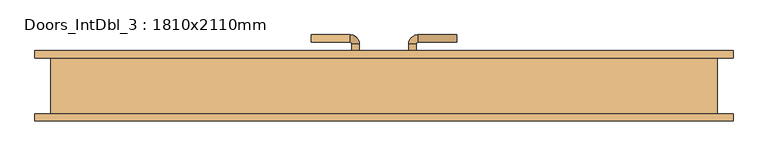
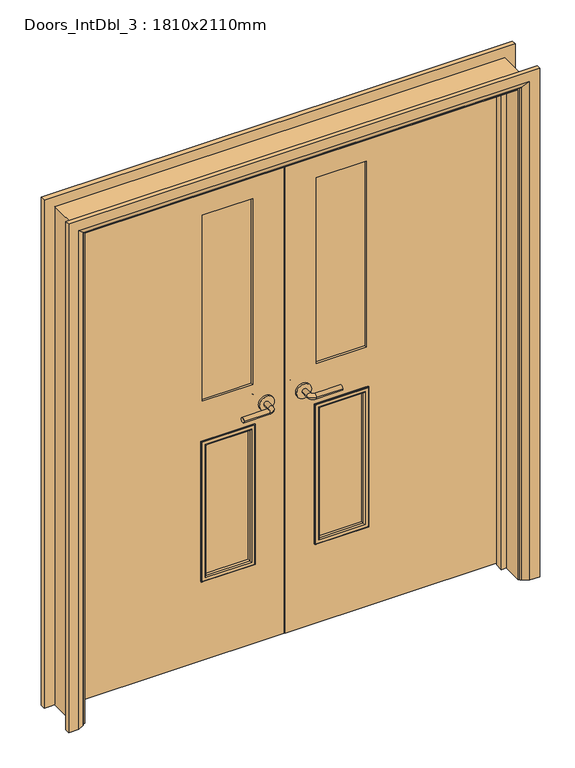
"""IFC4 building model written with IfcOpenShell, lengths in millimetres: door geometry, Doors_IntDbl_3 : 1810x2110mm."""

from ifc_helpers import new_model, si_unit, point, frame, frame_2d, origin, place, context, project, spatial, polyline, circle_curve, ellipse_curve, trimmed, segment, composite_curve, outline, extrude, faceted_brep, source, transform, mapped, element, save
from ifc_brep_helpers import plane_surface, cylinder_surface, revolved_surface, advanced_brep


def doors_intdbl_3_1810x2110mm_64ebe9ef(model_context):
    return source(origin(), model_context, "Body", "SolidModel", [
        advanced_brep(
        [(-66.5, 35.0, 1007.0), (-86.5, 35.0, 1007.0), (-66.5, 5.0, 1007.0), (-86.5, 5.0, 1007.0), (-91.5, 0.0, 1007.0), (-91.5, -20.0, 1007.0), (-196.5, -20.0, 1007.0), (-196.5, 0.0, 1007.0)],
        [
            (0, 1, circle_curve(frame((-76.5, 35.0, 1007.0), z_axis=(0.0, 1.0, 0.0), x_axis=(-1.0, 0.0, 0.0)), 10.0)),
            (1, 0, circle_curve(frame((-76.5, 35.0, 1007.0), z_axis=(0.0, 1.0, 0.0), x_axis=(-1.0, 0.0, 0.0)), 10.0)),
            (0, 2),
            (2, 3, circle_curve(frame((-76.5, 5.0, 1007.0), z_axis=(0.0, 1.0, 0.0), x_axis=(-1.0, 0.0, 0.0)), 10.0)),
            (3, 1),
            (3, 2, circle_curve(frame((-76.5, 5.0, 1007.0), z_axis=(0.0, 1.0, 0.0), x_axis=(-1.0, 0.0, 0.0)), 10.0)),
            (4, 3, circle_curve(frame((-91.5, 5.0, 1007.0), z_axis=(0.0, 0.0, 1.0), x_axis=(1.0, 0.0, 0.0)), 5.0)),
            (2, 5, circle_curve(frame((-91.5, 5.0, 1007.0), z_axis=(0.0, 0.0, -1.0), x_axis=(1.0, 0.0, 0.0)), 25.0)),
            (5, 4, circle_curve(frame((-91.5, -10.0, 1007.0), z_axis=(1.0, 0.0, 0.0), x_axis=(0.0, 1.0, 0.0)), 10.0)),
            (4, 5, circle_curve(frame((-91.5, -10.0, 1007.0), z_axis=(1.0, 0.0, 0.0), x_axis=(0.0, 1.0, 0.0)), 10.0)),
            (6, 7, circle_curve(frame((-196.5, -10.0, 1007.0), z_axis=(-1.0, 0.0, 0.0), x_axis=(0.0, 1.0, 0.0)), 10.0)),
            (7, 6, circle_curve(frame((-196.5, -10.0, 1007.0), z_axis=(-1.0, 0.0, 0.0), x_axis=(0.0, 1.0, 0.0)), 10.0)),
            (5, 6),
            (7, 4),
        ],
        [
            plane_surface(frame((-76.5, 35.0, 1007.0), z_axis=(0.0, 1.0, 0.0), x_axis=(0.0, 0.0, 1.0))),
            cylinder_surface(frame((-76.5, 35.0, 1007.0), z_axis=(0.0, 1.0, 0.0), x_axis=(-1.0, 0.0, 0.0)), 10.0),
            revolved_surface(trimmed(ellipse_curve(frame((-76.5, 5.0, 1007.0), z_axis=(0.0, 1.0, 0.0), x_axis=(-1.0, 0.0, 0.0)), 10.0, 10.0), [point((-66.5, 5.0, 1007.0))], [point((-86.5, 5.0, 1007.0))], True, "CARTESIAN"), (-91.5, 5.0, 1007.0), (0.0, 0.0, -1.0)),
            revolved_surface(trimmed(ellipse_curve(frame((-76.5, 5.0, 1007.0), z_axis=(0.0, 1.0, 0.0), x_axis=(-1.0, 0.0, 0.0)), 10.0, 10.0), [point((-86.5, 5.0, 1007.0))], [point((-66.5, 5.0, 1007.0))], True, "CARTESIAN"), (-91.5, 5.0, 1007.0), (0.0, 0.0, -1.0)),
            plane_surface(frame((-196.5, -10.0, 1007.0), z_axis=(-1.0, 0.0, 0.0), x_axis=(0.0, 0.0, 1.0))),
            cylinder_surface(frame((-91.5, -10.0, 1007.0), z_axis=(1.0, 0.0, 0.0), x_axis=(0.0, 1.0, 0.0)), 10.0),
        ],
        [
            (0, [[1, 2]]),
            (1, [[-1, 3, 4, 5]]),
            (1, [[-2, -5, 6, -3]]),
            (2, [[7, -4, 8, 9]]),
            (3, [[-8, -6, -7, 10]]),
            (4, [[11, 12]]),
            (5, [[-9, 13, -12, 14]]),
            (5, [[-10, -14, -11, -13]]),
        ],
    ),
        extrude(outline(composite_curve([segment(trimmed(circle_curve(frame_2d((1007.0, -74.0)), 30.0), [point((1007.0, -44.0))], [point((1007.0, -104.0))], False, "CARTESIAN"), True, "CONTINUOUS"), segment(trimmed(circle_curve(frame_2d((1007.0, -74.0)), 30.0), [point((1007.0, -104.0))], [point((1007.0, -44.0))], False, "CARTESIAN"), True, "CONTINUOUS")], self_intersect=False)), frame((0.0, 35.0, 0.0), z_axis=(0.0, 1.0, 0.0), x_axis=(0.0, 0.0, 1.0)), (0.0, 0.0, 1.0), 8.0),
        advanced_brep(
        [(-66.5, 83.0, 1007.0), (-86.5, 83.0, 1007.0), (-86.5, 113.0, 1007.0), (-66.5, 113.0, 1007.0), (-91.5, 118.0, 1007.0), (-91.5, 138.0, 1007.0), (-196.5, 138.0, 1007.0), (-196.5, 118.0, 1007.0)],
        [
            (0, 1, circle_curve(frame((-76.5, 83.0, 1007.0), z_axis=(0.0, -1.0, 0.0), x_axis=(-1.0, 0.0, 0.0)), 10.0)),
            (1, 0, circle_curve(frame((-76.5, 83.0, 1007.0), z_axis=(0.0, -1.0, 0.0), x_axis=(-1.0, 0.0, 0.0)), 10.0)),
            (1, 2),
            (2, 3, circle_curve(frame((-76.5, 113.0, 1007.0), z_axis=(0.0, -1.0, 0.0), x_axis=(-1.0, 0.0, 0.0)), 10.0)),
            (3, 0),
            (3, 2, circle_curve(frame((-76.5, 113.0, 1007.0), z_axis=(0.0, -1.0, 0.0), x_axis=(-1.0, 0.0, 0.0)), 10.0)),
            (4, 5, circle_curve(frame((-91.5, 128.0, 1007.0), z_axis=(1.0, 0.0, 0.0), x_axis=(0.0, -1.0, 0.0)), 10.0)),
            (5, 3, circle_curve(frame((-91.5, 113.0, 1007.0), z_axis=(0.0, 0.0, -1.0), x_axis=(1.0, 0.0, 0.0)), 25.0)),
            (2, 4, circle_curve(frame((-91.5, 113.0, 1007.0), z_axis=(0.0, 0.0, 1.0), x_axis=(1.0, 0.0, 0.0)), 5.0)),
            (5, 4, circle_curve(frame((-91.5, 128.0, 1007.0), z_axis=(1.0, 0.0, 0.0), x_axis=(0.0, -1.0, 0.0)), 10.0)),
            (6, 7, circle_curve(frame((-196.5, 128.0, 1007.0), z_axis=(-1.0, 0.0, 0.0), x_axis=(0.0, -1.0, 0.0)), 10.0)),
            (7, 6, circle_curve(frame((-196.5, 128.0, 1007.0), z_axis=(-1.0, 0.0, 0.0), x_axis=(0.0, -1.0, 0.0)), 10.0)),
            (4, 7),
            (6, 5),
        ],
        [
            plane_surface(frame((-76.5, 83.0, 1007.0), z_axis=(0.0, -1.0, 0.0), x_axis=(0.0, 0.0, 1.0))),
            cylinder_surface(frame((-76.5, 83.0, 1007.0), z_axis=(0.0, -1.0, 0.0), x_axis=(-1.0, 0.0, 0.0)), 10.0),
            revolved_surface(trimmed(ellipse_curve(frame((-76.5, 113.0, 1007.0), z_axis=(0.0, 1.0, 0.0), x_axis=(-1.0, 0.0, 0.0)), 10.0, 10.0), [point((-66.5, 113.0, 1007.0))], [point((-86.5, 113.0, 1007.0))], True, "CARTESIAN"), (-91.5, 113.0, 1007.0), (0.0, 0.0, -1.0)),
            revolved_surface(trimmed(ellipse_curve(frame((-76.5, 113.0, 1007.0), z_axis=(0.0, 1.0, 0.0), x_axis=(-1.0, 0.0, 0.0)), 10.0, 10.0), [point((-86.5, 113.0, 1007.0))], [point((-66.5, 113.0, 1007.0))], True, "CARTESIAN"), (-91.5, 113.0, 1007.0), (0.0, 0.0, -1.0)),
            plane_surface(frame((-196.5, 128.0, 1007.0), z_axis=(-1.0, 0.0, 0.0), x_axis=(0.0, 0.0, 1.0))),
            cylinder_surface(frame((-91.5, 128.0, 1007.0), z_axis=(1.0, 0.0, 0.0), x_axis=(0.0, -1.0, 0.0)), 10.0),
        ],
        [
            (0, [[1, 2]]),
            (1, [[3, 4, 5, -2]]),
            (1, [[-5, 6, -3, -1]]),
            (2, [[7, 8, -4, 9]]),
            (3, [[10, -9, -6, -8]]),
            (4, [[11, 12]]),
            (5, [[13, -11, 14, -7]]),
            (5, [[-14, -12, -13, -10]]),
        ],
    ),
        extrude(outline(composite_curve([segment(trimmed(circle_curve(frame_2d((1007.0, -74.0)), 30.0), [point((1007.0, -44.0))], [point((1007.0, -104.0))], False, "CARTESIAN"), True, "CONTINUOUS"), segment(trimmed(circle_curve(frame_2d((1007.0, -74.0)), 30.0), [point((1007.0, -104.0))], [point((1007.0, -44.0))], False, "CARTESIAN"), True, "CONTINUOUS")], self_intersect=False)), frame((0.0, 75.0, 0.0), z_axis=(0.0, 1.0, 0.0), x_axis=(0.0, 0.0, 1.0)), (0.0, 0.0, 1.0), 8.0),
        advanced_brep(
        [(66.5, 35.0, 1007.0), (86.5, 35.0, 1007.0), (86.5, 5.0, 1007.0), (66.5, 5.0, 1007.0), (91.5, 0.0, 1007.0), (91.5, -20.0, 1007.0), (196.5, -20.0, 1007.0), (196.5, 0.0, 1007.0)],
        [
            (0, 1, circle_curve(frame((76.5, 35.0, 1007.0), z_axis=(0.0, 1.0, 0.0), x_axis=(1.0, 0.0, 0.0)), 10.0)),
            (1, 0, circle_curve(frame((76.5, 35.0, 1007.0), z_axis=(0.0, 1.0, 0.0), x_axis=(1.0, 0.0, 0.0)), 10.0)),
            (1, 2),
            (2, 3, circle_curve(frame((76.5, 5.0, 1007.0), z_axis=(0.0, 1.0, 0.0), x_axis=(1.0, 0.0, 0.0)), 10.0)),
            (3, 0),
            (3, 2, circle_curve(frame((76.5, 5.0, 1007.0), z_axis=(0.0, 1.0, 0.0), x_axis=(1.0, 0.0, 0.0)), 10.0)),
            (4, 5, circle_curve(frame((91.5, -10.0, 1007.0), z_axis=(-1.0, 0.0, 0.0), x_axis=(0.0, 1.0, 0.0)), 10.0)),
            (5, 3, circle_curve(frame((91.5, 5.0, 1007.0), z_axis=(0.0, 0.0, -1.0), x_axis=(-1.0, 0.0, 0.0)), 25.0)),
            (2, 4, circle_curve(frame((91.5, 5.0, 1007.0), z_axis=(0.0, 0.0, 1.0), x_axis=(-1.0, 0.0, 0.0)), 5.0)),
            (5, 4, circle_curve(frame((91.5, -10.0, 1007.0), z_axis=(-1.0, 0.0, 0.0), x_axis=(0.0, 1.0, 0.0)), 10.0)),
            (6, 7, circle_curve(frame((196.5, -10.0, 1007.0), z_axis=(1.0, 0.0, 0.0), x_axis=(0.0, 1.0, 0.0)), 10.0)),
            (7, 6, circle_curve(frame((196.5, -10.0, 1007.0), z_axis=(1.0, 0.0, 0.0), x_axis=(0.0, 1.0, 0.0)), 10.0)),
            (4, 7),
            (6, 5),
        ],
        [
            plane_surface(frame((76.5, 35.0, 1007.0), z_axis=(0.0, 1.0, 0.0), x_axis=(0.0, 0.0, 1.0))),
            cylinder_surface(frame((76.5, 35.0, 1007.0), z_axis=(0.0, 1.0, 0.0), x_axis=(1.0, 0.0, 0.0)), 10.0),
            revolved_surface(trimmed(ellipse_curve(frame((76.5, 5.0, 1007.0), z_axis=(0.0, -1.0, 0.0), x_axis=(1.0, 0.0, 0.0)), 10.0, 10.0), [point((66.5, 5.0, 1007.0))], [point((86.5, 5.0, 1007.0))], True, "CARTESIAN"), (91.5, 5.0, 1007.0), (0.0, 0.0, -1.0)),
            revolved_surface(trimmed(ellipse_curve(frame((76.5, 5.0, 1007.0), z_axis=(0.0, -1.0, 0.0), x_axis=(1.0, 0.0, 0.0)), 10.0, 10.0), [point((86.5, 5.0, 1007.0))], [point((66.5, 5.0, 1007.0))], True, "CARTESIAN"), (91.5, 5.0, 1007.0), (0.0, 0.0, -1.0)),
            plane_surface(frame((196.5, -10.0, 1007.0), z_axis=(1.0, 0.0, 0.0), x_axis=(0.0, 0.0, 1.0))),
            cylinder_surface(frame((91.5, -10.0, 1007.0), z_axis=(-1.0, 0.0, 0.0), x_axis=(0.0, 1.0, 0.0)), 10.0),
        ],
        [
            (0, [[1, 2]]),
            (1, [[3, 4, 5, -2]]),
            (1, [[-5, 6, -3, -1]]),
            (2, [[7, 8, -4, 9]]),
            (3, [[10, -9, -6, -8]]),
            (4, [[11, 12]]),
            (5, [[13, -11, 14, -7]]),
            (5, [[-14, -12, -13, -10]]),
        ],
    ),
        extrude(outline(composite_curve([segment(trimmed(circle_curve(frame_2d((1007.0, 74.0)), 30.0), [point((1007.0, 44.0))], [point((1007.0, 104.0))], False, "CARTESIAN"), True, "CONTINUOUS"), segment(trimmed(circle_curve(frame_2d((1007.0, 74.0)), 30.0), [point((1007.0, 104.0))], [point((1007.0, 44.0))], False, "CARTESIAN"), True, "CONTINUOUS")], self_intersect=False)), frame((0.0, 35.0, 0.0), z_axis=(0.0, 1.0, 0.0), x_axis=(0.0, 0.0, 1.0)), (0.0, 0.0, 1.0), 8.0),
        advanced_brep(
        [(66.5, 83.0, 1007.0), (86.5, 83.0, 1007.0), (66.5, 113.0, 1007.0), (86.5, 113.0, 1007.0), (91.5, 118.0, 1007.0), (91.5, 138.0, 1007.0), (196.5, 138.0, 1007.0), (196.5, 118.0, 1007.0)],
        [
            (0, 1, circle_curve(frame((76.5, 83.0, 1007.0), z_axis=(0.0, -1.0, 0.0), x_axis=(1.0, 0.0, 0.0)), 10.0)),
            (1, 0, circle_curve(frame((76.5, 83.0, 1007.0), z_axis=(0.0, -1.0, 0.0), x_axis=(1.0, 0.0, 0.0)), 10.0)),
            (0, 2),
            (2, 3, circle_curve(frame((76.5, 113.0, 1007.0), z_axis=(0.0, -1.0, 0.0), x_axis=(1.0, 0.0, 0.0)), 10.0)),
            (3, 1),
            (3, 2, circle_curve(frame((76.5, 113.0, 1007.0), z_axis=(0.0, -1.0, 0.0), x_axis=(1.0, 0.0, 0.0)), 10.0)),
            (4, 3, circle_curve(frame((91.5, 113.0, 1007.0), z_axis=(0.0, 0.0, 1.0), x_axis=(-1.0, 0.0, 0.0)), 5.0)),
            (2, 5, circle_curve(frame((91.5, 113.0, 1007.0), z_axis=(0.0, 0.0, -1.0), x_axis=(-1.0, 0.0, 0.0)), 25.0)),
            (5, 4, circle_curve(frame((91.5, 128.0, 1007.0), z_axis=(-1.0, 0.0, 0.0), x_axis=(0.0, -1.0, 0.0)), 10.0)),
            (4, 5, circle_curve(frame((91.5, 128.0, 1007.0), z_axis=(-1.0, 0.0, 0.0), x_axis=(0.0, -1.0, 0.0)), 10.0)),
            (6, 7, circle_curve(frame((196.5, 128.0, 1007.0), z_axis=(1.0, 0.0, 0.0), x_axis=(0.0, -1.0, 0.0)), 10.0)),
            (7, 6, circle_curve(frame((196.5, 128.0, 1007.0), z_axis=(1.0, 0.0, 0.0), x_axis=(0.0, -1.0, 0.0)), 10.0)),
            (5, 6),
            (7, 4),
        ],
        [
            plane_surface(frame((76.5, 83.0, 1007.0), z_axis=(0.0, -1.0, 0.0), x_axis=(0.0, 0.0, 1.0))),
            cylinder_surface(frame((76.5, 83.0, 1007.0), z_axis=(0.0, -1.0, 0.0), x_axis=(1.0, 0.0, 0.0)), 10.0),
            revolved_surface(trimmed(ellipse_curve(frame((76.5, 113.0, 1007.0), z_axis=(0.0, -1.0, 0.0), x_axis=(1.0, 0.0, 0.0)), 10.0, 10.0), [point((66.5, 113.0, 1007.0))], [point((86.5, 113.0, 1007.0))], True, "CARTESIAN"), (91.5, 113.0, 1007.0), (0.0, 0.0, -1.0)),
            revolved_surface(trimmed(ellipse_curve(frame((76.5, 113.0, 1007.0), z_axis=(0.0, -1.0, 0.0), x_axis=(1.0, 0.0, 0.0)), 10.0, 10.0), [point((86.5, 113.0, 1007.0))], [point((66.5, 113.0, 1007.0))], True, "CARTESIAN"), (91.5, 113.0, 1007.0), (0.0, 0.0, -1.0)),
            plane_surface(frame((196.5, 128.0, 1007.0), z_axis=(1.0, 0.0, 0.0), x_axis=(0.0, 0.0, 1.0))),
            cylinder_surface(frame((91.5, 128.0, 1007.0), z_axis=(-1.0, 0.0, 0.0), x_axis=(0.0, -1.0, 0.0)), 10.0),
        ],
        [
            (0, [[1, 2]]),
            (1, [[-1, 3, 4, 5]]),
            (1, [[-2, -5, 6, -3]]),
            (2, [[7, -4, 8, 9]]),
            (3, [[-8, -6, -7, 10]]),
            (4, [[11, 12]]),
            (5, [[-9, 13, -12, 14]]),
            (5, [[-10, -14, -11, -13]]),
        ],
    ),
        extrude(outline(composite_curve([segment(trimmed(circle_curve(frame_2d((1007.0, 74.0)), 30.0), [point((1007.0, 44.0))], [point((1007.0, 104.0))], False, "CARTESIAN"), True, "CONTINUOUS"), segment(trimmed(circle_curve(frame_2d((1007.0, 74.0)), 30.0), [point((1007.0, 104.0))], [point((1007.0, 44.0))], False, "CARTESIAN"), True, "CONTINUOUS")], self_intersect=False)), frame((0.0, 75.0, 0.0), z_axis=(0.0, 1.0, 0.0), x_axis=(0.0, 0.0, 1.0)), (0.0, 0.0, 1.0), 8.0),
        advanced_brep(
        [(-940.0, -95.0, 0.0), (-940.0, -75.0, 0.0), (-870.0, -75.0, 0.0), (-874.0, -81.0, 0.0), (-900.0, -95.0, 0.0), (-940.0, -95.0, 2145.0), (-940.0, -75.0, 2145.0), (940.0, -75.0, 2145.0), (940.0, -75.0, 0.0), (870.0, -75.0, 0.0), (870.0, -75.0, 2075.0), (-870.0, -75.0, 2075.0), (-874.0, -81.0, 2079.0), (-900.0, -95.0, 2105.0), (900.0, -95.0, 2105.0), (900.0, -95.0, 0.0), (940.0, -95.0, 0.0), (940.0, -95.0, 2145.0), (874.0, -81.0, 0.0), (874.0, -81.0, 2079.0)],
        [
            (0, 1),
            (1, 2),
            (2, 3, circle_curve(frame((-878.0, -74.0, 0.0), z_axis=(0.0, 0.0, -1.0), x_axis=(-1.0, 0.0, 0.0)), 8.0622577)),
            (3, 4),
            (4, 0),
            (0, 5),
            (5, 6),
            (6, 1),
            (6, 7),
            (7, 8),
            (8, 9),
            (9, 10),
            (10, 11),
            (11, 2),
            (11, 12, ellipse_curve(frame((-878.0, -74.0, 2083.0), z_axis=(-0.7071067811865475, 0.0, -0.7071067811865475), x_axis=(0.7071067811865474, 0.0, -0.7071067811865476)), 11.4017543, 8.0622577)),
            (12, 3),
            (12, 13),
            (13, 4),
            (13, 14),
            (14, 15),
            (15, 16),
            (16, 17),
            (17, 5),
            (7, 17),
            (16, 8),
            (15, 18),
            (18, 9, circle_curve(frame((878.0, -74.0, 0.0), z_axis=(0.0, 0.0, -1.0), x_axis=(1.0, 0.0, 0.0)), 8.0622577)),
            (19, 10, ellipse_curve(frame((878.0, -74.0, 2083.0), z_axis=(0.7071067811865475, 0.0, -0.7071067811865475), x_axis=(0.7071067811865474, 0.0, 0.7071067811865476)), 11.4017543, 8.0622577)),
            (18, 19),
            (14, 19),
            (19, 12),
        ],
        [
            plane_surface(frame((-870.0, -75.0, 0.0), z_axis=(0.0, 0.0, -1.0), x_axis=(0.0, -1.0, 0.0))),
            plane_surface(frame((-940.0, -95.0, 0.0), z_axis=(-1.0, 0.0, 0.0), x_axis=(0.0, 0.0, 1.0))),
            plane_surface(frame((-940.0, -75.0, 0.0), z_axis=(0.0, 1.0, 0.0), x_axis=(0.0, 0.0, 1.0))),
            cylinder_surface(frame((-878.0, -74.0, 0.0), z_axis=(0.0, 0.0, -1.0), x_axis=(-1.0, 0.0, 0.0)), 8.0622577),
            plane_surface(frame((-874.0, -81.0, 0.0), z_axis=(0.4740998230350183, -0.8804710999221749, 0.0), x_axis=(0.0, 0.0, 1.0))),
            plane_surface(frame((-900.0, -95.0, 0.0), z_axis=(0.0, -1.0, 0.0), x_axis=(0.0, 0.0, 1.0))),
            plane_surface(frame((940.0, -95.0, 2145.0), z_axis=(1.0, 0.0, 0.0), x_axis=(0.0, 0.0, -1.0))),
            plane_surface(frame((870.0, -75.0, 0.0), z_axis=(0.0, 0.0, -1.0), x_axis=(0.0, -1.0, 0.0))),
            cylinder_surface(frame((878.0, -74.0, 2075.0), z_axis=(0.0, 0.0, 1.0), x_axis=(1.0, 0.0, 0.0)), 8.0622577),
            plane_surface(frame((874.0, -81.0, 2079.0), z_axis=(-0.4740998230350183, -0.8804710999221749, 0.0), x_axis=(0.0, 0.0, -1.0))),
            plane_surface(frame((-940.0, -95.0, 2145.0), z_axis=(0.0, 0.0, 1.0), x_axis=(1.0, 0.0, 0.0))),
            cylinder_surface(frame((-870.0, -74.0, 2083.0), z_axis=(-1.0, 0.0, 0.0), x_axis=(0.0, 0.0, 1.0)), 8.0622577),
            plane_surface(frame((-874.0, -81.0, 2079.0), z_axis=(0.0, -0.8804710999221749, -0.4740998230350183), x_axis=(1.0, 0.0, 0.0))),
        ],
        [
            (0, [[1, 2, 3, 4, 5]]),
            (1, [[-1, 6, 7, 8]]),
            (2, [[-2, -8, 9, 10, 11, 12, 13, 14]]),
            (3, [[-3, -14, 15, 16]]),
            (4, [[-4, -16, 17, 18]]),
            (5, [[-5, -18, 19, 20, 21, 22, 23, -6]]),
            (6, [[24, -22, 25, -10]]),
            (7, [[-21, 26, 27, -11, -25]]),
            (8, [[28, -12, -27, 29]]),
            (9, [[30, -29, -26, -20]]),
            (10, [[-7, -23, -24, -9]]),
            (11, [[-15, -13, -28, 31]]),
            (12, [[-17, -31, -30, -19]]),
        ],
    ),
        advanced_brep(
        [(940.0, 95.0, 0.0), (940.0, 75.0, 0.0), (870.0, 75.0, 0.0), (874.0, 81.0, 0.0), (900.0, 95.0, 0.0), (940.0, 95.0, 2145.0), (940.0, 75.0, 2145.0), (-940.0, 75.0, 2145.0), (-940.0, 75.0, 0.0), (-870.0, 75.0, 0.0), (-870.0, 75.0, 2075.0), (870.0, 75.0, 2075.0), (874.0, 81.0, 2079.0), (900.0, 95.0, 2105.0), (-900.0, 95.0, 2105.0), (-900.0, 95.0, 0.0), (-940.0, 95.0, 0.0), (-940.0, 95.0, 2145.0), (-874.0, 81.0, 0.0), (-874.0, 81.0, 2079.0)],
        [
            (0, 1),
            (1, 2),
            (2, 3, circle_curve(frame((878.0, 74.0, 0.0), z_axis=(0.0, 0.0, -1.0), x_axis=(1.0, 0.0, 0.0)), 8.0622577)),
            (3, 4),
            (4, 0),
            (0, 5),
            (5, 6),
            (6, 1),
            (6, 7),
            (7, 8),
            (8, 9),
            (9, 10),
            (10, 11),
            (11, 2),
            (11, 12, ellipse_curve(frame((878.0, 74.0, 2083.0), z_axis=(0.7071067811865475, 0.0, -0.7071067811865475), x_axis=(-0.7071067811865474, 0.0, -0.7071067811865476)), 11.4017543, 8.0622577)),
            (12, 3),
            (12, 13),
            (13, 4),
            (13, 14),
            (14, 15),
            (15, 16),
            (16, 17),
            (17, 5),
            (7, 17),
            (16, 8),
            (15, 18),
            (18, 9, circle_curve(frame((-878.0, 74.0, 0.0), z_axis=(0.0, 0.0, -1.0), x_axis=(-1.0, 0.0, 0.0)), 8.0622577)),
            (19, 10, ellipse_curve(frame((-878.0, 74.0, 2083.0), z_axis=(-0.7071067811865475, 0.0, -0.7071067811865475), x_axis=(-0.7071067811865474, 0.0, 0.7071067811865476)), 11.4017543, 8.0622577)),
            (18, 19),
            (14, 19),
            (19, 12),
        ],
        [
            plane_surface(frame((870.0, 75.0, 0.0), z_axis=(0.0, 0.0, -1.0), x_axis=(0.0, -1.0, 0.0))),
            plane_surface(frame((940.0, 95.0, 0.0), z_axis=(1.0, 0.0, 0.0), x_axis=(0.0, 0.0, 1.0))),
            plane_surface(frame((940.0, 75.0, 0.0), z_axis=(0.0, -1.0, 0.0), x_axis=(0.0, 0.0, 1.0))),
            cylinder_surface(frame((878.0, 74.0, 0.0), z_axis=(0.0, 0.0, -1.0), x_axis=(1.0, 0.0, 0.0)), 8.0622577),
            plane_surface(frame((874.0, 81.0, 0.0), z_axis=(-0.4740998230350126, 0.8804710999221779, 0.0), x_axis=(0.0, 0.0, 1.0))),
            plane_surface(frame((900.0, 95.0, 0.0), z_axis=(0.0, 1.0, 0.0), x_axis=(0.0, 0.0, 1.0))),
            plane_surface(frame((-940.0, 95.0, 2145.0), z_axis=(-1.0, 0.0, 0.0), x_axis=(0.0, 0.0, -1.0))),
            plane_surface(frame((-870.0, 75.0, 0.0), z_axis=(0.0, 0.0, -1.0), x_axis=(0.0, -1.0, 0.0))),
            cylinder_surface(frame((-878.0, 74.0, 2075.0), z_axis=(0.0, 0.0, 1.0), x_axis=(-1.0, 0.0, 0.0)), 8.0622577),
            plane_surface(frame((-874.0, 81.0, 2079.0), z_axis=(0.4740998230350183, 0.8804710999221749, 0.0), x_axis=(0.0, 0.0, -1.0))),
            plane_surface(frame((940.0, 95.0, 2145.0), z_axis=(0.0, 0.0, 1.0), x_axis=(-1.0, 0.0, 0.0))),
            cylinder_surface(frame((870.0, 74.0, 2083.0), z_axis=(1.0, 0.0, 0.0), x_axis=(0.0, 0.0, 1.0)), 8.0622577),
            plane_surface(frame((874.0, 81.0, 2079.0), z_axis=(0.0, 0.8804710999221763, -0.4740998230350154), x_axis=(-1.0, 0.0, 0.0))),
        ],
        [
            (0, [[1, 2, 3, 4, 5]]),
            (1, [[-1, 6, 7, 8]]),
            (2, [[-2, -8, 9, 10, 11, 12, 13, 14]]),
            (3, [[-3, -14, 15, 16]]),
            (4, [[-4, -16, 17, 18]]),
            (5, [[-5, -18, 19, 20, 21, 22, 23, -6]]),
            (6, [[24, -22, 25, -10]]),
            (7, [[-21, 26, 27, -11, -25]]),
            (8, [[28, -12, -27, 29]]),
            (9, [[30, -29, -26, -20]]),
            (10, [[-7, -23, -24, -9]]),
            (11, [[-15, -13, -28, 31]]),
            (12, [[-17, -31, -30, -19]]),
        ],
    ),
        faceted_brep([(-846.0, 40.0, 0.0), (-846.0, 8.0, 0.0), (-865.0, 8.0, 0.0), (-865.0, 40.0, 0.0), (-846.0, 40.0, 2051.0), (-846.0, 8.0, 2051.0), (-865.0, 8.0, 2070.0), (-865.0, 40.0, 2070.0), (846.0, 40.0, 0.0), (865.0, 40.0, 0.0), (865.0, 8.0, 0.0), (846.0, 8.0, 0.0), (846.0, 40.0, 2051.0), (865.0, 40.0, 2070.0), (865.0, 8.0, 2070.0), (846.0, 8.0, 2051.0)], [[[0, 1, 2, 3]], [[1, 0, 4, 5]], [[2, 1, 5, 6]], [[3, 2, 6, 7]], [[0, 3, 7, 4]], [[8, 9, 10, 11]], [[12, 13, 9, 8]], [[13, 14, 10, 9]], [[14, 15, 11, 10]], [[15, 12, 8, 11]], [[5, 4, 12, 15]], [[6, 5, 15, 14]], [[7, 6, 14, 13]], [[4, 7, 13, 12]]]),
        extrude(outline(polyline([(2102.0, -897.0), (0.0, -897.0), (0.0, -865.0), (2070.0, -865.0), (2070.0, 865.0), (0.0, 865.0), (0.0, 897.0), (2102.0, 897.0), (2102.0, -897.0)])), frame((0.0, -75.0, 0.0), z_axis=(0.0, 1.0, 0.0), x_axis=(0.0, 0.0, 1.0)), (0.0, 0.0, 1.0), 150.0),
        extrude(outline(polyline([(326.5, 53.0), (126.5, 53.0), (126.5, 65.0), (326.5, 65.0), (326.5, 53.0)])), frame((0.0, 0.0, 1100.0), z_axis=(0.0, 0.0, 1.0), x_axis=(1.0, 0.0, 0.0)), (0.0, 0.0, 1.0), 785.0),
        extrude(outline(polyline([(326.5, 53.0), (126.5, 53.0), (126.5, 65.0), (326.5, 65.0), (326.5, 53.0)])), frame((0.0, 0.0, 350.0), z_axis=(0.0, 0.0, 1.0), x_axis=(1.0, 0.0, 0.0)), (0.0, 0.0, 1.0), 575.0),
        extrude(outline(polyline([(-126.5, 53.0), (-326.5, 53.0), (-326.5, 65.0), (-126.5, 65.0), (-126.5, 53.0)])), frame((0.0, 0.0, 350.0), z_axis=(0.0, 0.0, 1.0), x_axis=(1.0, 0.0, 0.0)), (0.0, 0.0, 1.0), 575.0),
        extrude(outline(polyline([(-126.5, 53.0), (-326.5, 53.0), (-326.5, 65.0), (-126.5, 65.0), (-126.5, 53.0)])), frame((0.0, 0.0, 1100.0), z_axis=(0.0, 0.0, 1.0), x_axis=(1.0, 0.0, 0.0)), (0.0, 0.0, 1.0), 785.0),
        extrude(outline(polyline([(5.753223, -862.0), (5.753223, -1.5), (2067.0, -1.5), (2067.0, -862.0), (5.753223, -862.0)]), holes=[polyline([(1885.0, -326.5), (1885.0, -126.5), (1100.0, -126.5), (1100.0, -326.5), (1885.0, -326.5)]), polyline([(925.0, -126.5), (350.0, -126.5), (350.0, -326.5), (925.0, -326.5), (925.0, -126.5)])]), frame((0.0, 43.0, 0.0), z_axis=(0.0, 1.0, 0.0), x_axis=(0.0, 0.0, 1.0)), (0.0, 0.0, 1.0), 32.0),
        extrude(outline(polyline([(5.753223, 862.0), (2067.0, 862.0), (2067.0, 1.5), (5.753223, 1.5), (5.753223, 862.0)]), holes=[polyline([(1885.0, 126.5), (1885.0, 326.5), (1100.0, 326.5), (1100.0, 126.5), (1885.0, 126.5)]), polyline([(925.0, 326.5), (350.0, 326.5), (350.0, 126.5), (925.0, 126.5), (925.0, 326.5)])]), frame((0.0, 43.0, 0.0), z_axis=(0.0, 1.0, 0.0), x_axis=(0.0, 0.0, 1.0)), (0.0, 0.0, 1.0), 32.0),
        advanced_brep(
        [(334.5, 39.0, 342.0), (334.5, 43.0, 342.0), (334.5, 43.0, 933.0), (334.5, 39.0, 933.0), (332.5, 37.0, 344.0), (332.5, 37.0, 931.0), (314.5, 42.0, 362.0), (319.5, 37.0, 357.0), (319.5, 37.0, 918.0), (314.5, 42.0, 913.0), (314.5, 53.0, 362.0), (314.5, 53.0, 913.0), (326.5, 43.0, 350.0), (326.5, 53.0, 350.0), (326.5, 53.0, 925.0), (326.5, 43.0, 925.0), (118.5, 43.0, 933.0), (118.5, 39.0, 933.0), (120.5, 37.0, 931.0), (133.5, 37.0, 918.0), (138.5, 42.0, 913.0), (138.5, 53.0, 913.0), (126.5, 53.0, 925.0), (126.5, 43.0, 925.0), (118.5, 43.0, 342.0), (118.5, 39.0, 342.0), (120.5, 37.0, 344.0), (133.5, 37.0, 357.0), (138.5, 42.0, 362.0), (138.5, 53.0, 362.0), (126.5, 53.0, 350.0), (126.5, 43.0, 350.0)],
        [
            (0, 1),
            (1, 2),
            (2, 3),
            (3, 0),
            (4, 0, ellipse_curve(frame((332.5, 39.0, 344.0), z_axis=(0.7071067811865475, 0.0, 0.7071067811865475), x_axis=(0.7071067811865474, 0.0, -0.7071067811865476)), 2.8284271, 2.0)),
            (3, 5, ellipse_curve(frame((332.5, 39.0, 931.0), z_axis=(0.7071067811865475, 0.0, -0.7071067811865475), x_axis=(-0.7071067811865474, 0.0, -0.7071067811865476)), 2.8284271, 2.0)),
            (5, 4),
            (6, 7, ellipse_curve(frame((319.5, 42.0, 357.0), z_axis=(0.7071067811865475, 0.0, 0.7071067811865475), x_axis=(0.7071067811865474, 0.0, -0.7071067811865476)), 7.0710678, 5.0)),
            (7, 8),
            (8, 9, ellipse_curve(frame((319.5, 42.0, 918.0), z_axis=(0.7071067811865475, 0.0, -0.7071067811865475), x_axis=(-0.7071067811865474, 0.0, -0.7071067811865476)), 7.0710678, 5.0)),
            (9, 6),
            (10, 6),
            (9, 11),
            (11, 10),
            (12, 13),
            (13, 14),
            (14, 15),
            (15, 12),
            (2, 16),
            (16, 17),
            (17, 3),
            (17, 18, ellipse_curve(frame((120.5, 39.0, 931.0), z_axis=(0.7071067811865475, 0.0, 0.7071067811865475), x_axis=(0.7071067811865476, 0.0, -0.7071067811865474)), 2.8284271, 2.0)),
            (18, 5),
            (8, 19),
            (19, 20, ellipse_curve(frame((133.5, 42.0, 918.0), z_axis=(0.7071067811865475, 0.0, 0.7071067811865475), x_axis=(0.7071067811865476, 0.0, -0.7071067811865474)), 7.0710678, 5.0)),
            (20, 9),
            (20, 21),
            (21, 11),
            (14, 22),
            (22, 23),
            (23, 15),
            (16, 24),
            (24, 25),
            (25, 17),
            (25, 26, ellipse_curve(frame((120.5, 39.0, 344.0), z_axis=(-0.7071067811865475, 0.0, 0.7071067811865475), x_axis=(0.7071067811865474, 0.0, 0.7071067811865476)), 2.8284271, 2.0)),
            (26, 18),
            (19, 27),
            (27, 28, ellipse_curve(frame((133.5, 42.0, 357.0), z_axis=(-0.7071067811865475, 0.0, 0.7071067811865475), x_axis=(0.7071067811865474, 0.0, 0.7071067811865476)), 7.0710678, 5.0)),
            (28, 20),
            (28, 29),
            (29, 21),
            (22, 30),
            (30, 31),
            (31, 23),
            (24, 1),
            (0, 25),
            (4, 26),
            (7, 27),
            (6, 28),
            (10, 29),
            (13, 30),
            (12, 31),
        ],
        [
            plane_surface(frame((334.5, 43.0, 342.0), z_axis=(1.0, 0.0, 0.0), x_axis=(0.0, 0.0, 1.0))),
            cylinder_surface(frame((332.5, 39.0, 350.0), z_axis=(0.0, 0.0, -1.0), x_axis=(1.0, 0.0, 0.0)), 2.0),
            cylinder_surface(frame((319.5, 42.0, 350.0), z_axis=(0.0, 0.0, -1.0), x_axis=(1.0, 0.0, 0.0)), 5.0),
            plane_surface(frame((314.5, 42.0, 362.0), z_axis=(-1.0, 0.0, 0.0), x_axis=(0.0, 0.0, 1.0))),
            plane_surface(frame((326.5, 53.0, 350.0), z_axis=(1.0, 0.0, 0.0), x_axis=(0.0, 0.0, 1.0))),
            plane_surface(frame((334.5, 43.0, 933.0), z_axis=(0.0, 0.0, 1.0), x_axis=(-1.0, 0.0, 0.0))),
            cylinder_surface(frame((326.5, 39.0, 931.0), z_axis=(1.0, 0.0, 0.0), x_axis=(0.0, 0.0, 1.0)), 2.0),
            cylinder_surface(frame((326.5, 42.0, 918.0), z_axis=(1.0, 0.0, 0.0), x_axis=(0.0, 0.0, 1.0)), 5.0),
            plane_surface(frame((314.5, 42.0, 913.0), z_axis=(0.0, 0.0, -1.0), x_axis=(-1.0, 0.0, 0.0))),
            plane_surface(frame((326.5, 53.0, 925.0), z_axis=(0.0, 0.0, 1.0), x_axis=(-1.0, 0.0, 0.0))),
            plane_surface(frame((118.5, 43.0, 933.0), z_axis=(-1.0, 0.0, 0.0), x_axis=(0.0, 0.0, -1.0))),
            cylinder_surface(frame((120.5, 39.0, 925.0), z_axis=(0.0, 0.0, 1.0), x_axis=(-1.0, 0.0, 0.0)), 2.0),
            cylinder_surface(frame((133.5, 42.0, 925.0), z_axis=(0.0, 0.0, 1.0), x_axis=(-1.0, 0.0, 0.0)), 5.0),
            plane_surface(frame((138.5, 42.0, 913.0), z_axis=(1.0, 0.0, 0.0), x_axis=(0.0, 0.0, -1.0))),
            plane_surface(frame((126.5, 53.0, 925.0), z_axis=(-1.0, 0.0, 0.0), x_axis=(0.0, 0.0, -1.0))),
            plane_surface(frame((118.5, 43.0, 342.0), z_axis=(0.0, 0.0, -1.0), x_axis=(1.0, 0.0, 0.0))),
            cylinder_surface(frame((126.5, 39.0, 344.0), z_axis=(-1.0, 0.0, 0.0), x_axis=(0.0, 0.0, -1.0)), 2.0),
            plane_surface(frame((120.5, 37.0, 344.0), z_axis=(0.0, -1.0, 0.0), x_axis=(1.0, 0.0, 0.0))),
            cylinder_surface(frame((126.5, 42.0, 357.0), z_axis=(-1.0, 0.0, 0.0), x_axis=(0.0, 0.0, -1.0)), 5.0),
            plane_surface(frame((138.5, 42.0, 362.0), z_axis=(0.0, 0.0, 1.0), x_axis=(1.0, 0.0, 0.0))),
            plane_surface(frame((138.5, 53.0, 362.0), z_axis=(0.0, 1.0, 0.0), x_axis=(1.0, 0.0, 0.0))),
            plane_surface(frame((126.5, 53.0, 350.0), z_axis=(0.0, 0.0, -1.0), x_axis=(1.0, 0.0, 0.0))),
            plane_surface(frame((126.5, 43.0, 350.0), z_axis=(0.0, 1.0, 0.0), x_axis=(1.0, 0.0, 0.0))),
        ],
        [
            (0, [[1, 2, 3, 4]]),
            (1, [[5, -4, 6, 7]]),
            (2, [[8, 9, 10, 11]]),
            (3, [[12, -11, 13, 14]]),
            (4, [[15, 16, 17, 18]]),
            (5, [[-3, 19, 20, 21]]),
            (6, [[-6, -21, 22, 23]]),
            (7, [[-10, 24, 25, 26]]),
            (8, [[-13, -26, 27, 28]]),
            (9, [[-17, 29, 30, 31]]),
            (10, [[-20, 32, 33, 34]]),
            (11, [[-22, -34, 35, 36]]),
            (12, [[-25, 37, 38, 39]]),
            (13, [[-27, -39, 40, 41]]),
            (14, [[-30, 42, 43, 44]]),
            (15, [[-33, 45, -1, 46]]),
            (16, [[-35, -46, -5, 47]]),
            (17, [[-23, -36, -47, -7], [48, -37, -24, -9]]),
            (18, [[-38, -48, -8, 49]]),
            (19, [[-40, -49, -12, 50]]),
            (20, [[51, -42, -29, -16], [-28, -41, -50, -14]]),
            (21, [[-43, -51, -15, 52]]),
            (22, [[-45, -32, -19, -2], [-31, -44, -52, -18]]),
        ],
    ),
        advanced_brep(
        [(-126.5, 53.0, 925.0), (-126.5, 43.0, 925.0), (-126.5, 43.0, 350.0), (-126.5, 53.0, 350.0), (-138.5, 42.0, 913.0), (-138.5, 53.0, 913.0), (-138.5, 53.0, 362.0), (-138.5, 42.0, 362.0), (-133.5, 37.0, 918.0), (-133.5, 37.0, 357.0), (-118.5, 39.0, 933.0), (-120.5, 37.0, 931.0), (-120.5, 37.0, 344.0), (-118.5, 39.0, 342.0), (-118.5, 43.0, 933.0), (-118.5, 43.0, 342.0), (-326.5, 43.0, 350.0), (-326.5, 53.0, 350.0), (-314.5, 53.0, 362.0), (-314.5, 42.0, 362.0), (-319.5, 37.0, 357.0), (-332.5, 37.0, 344.0), (-334.5, 39.0, 342.0), (-334.5, 43.0, 342.0), (-326.5, 43.0, 925.0), (-326.5, 53.0, 925.0), (-314.5, 53.0, 913.0), (-314.5, 42.0, 913.0), (-319.5, 37.0, 918.0), (-332.5, 37.0, 931.0), (-334.5, 39.0, 933.0), (-334.5, 43.0, 933.0)],
        [
            (0, 1),
            (1, 2),
            (2, 3),
            (3, 0),
            (4, 5),
            (5, 6),
            (6, 7),
            (7, 4),
            (8, 4, ellipse_curve(frame((-133.5, 42.0, 918.0), z_axis=(0.7071067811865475, 0.0, -0.7071067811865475), x_axis=(0.7071067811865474, 0.0, 0.7071067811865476)), 7.0710678, 5.0)),
            (7, 9, ellipse_curve(frame((-133.5, 42.0, 357.0), z_axis=(0.7071067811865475, 0.0, 0.7071067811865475), x_axis=(-0.7071067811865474, 0.0, 0.7071067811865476)), 7.0710678, 5.0)),
            (9, 8),
            (10, 11, ellipse_curve(frame((-120.5, 39.0, 931.0), z_axis=(0.7071067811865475, 0.0, -0.7071067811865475), x_axis=(0.7071067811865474, 0.0, 0.7071067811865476)), 2.8284271, 2.0)),
            (11, 12),
            (12, 13, ellipse_curve(frame((-120.5, 39.0, 344.0), z_axis=(0.7071067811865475, 0.0, 0.7071067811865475), x_axis=(-0.7071067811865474, 0.0, 0.7071067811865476)), 2.8284271, 2.0)),
            (13, 10),
            (14, 10),
            (13, 15),
            (15, 14),
            (2, 16),
            (16, 17),
            (17, 3),
            (6, 18),
            (18, 19),
            (19, 7),
            (19, 20, ellipse_curve(frame((-319.5, 42.0, 357.0), z_axis=(0.7071067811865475, 0.0, -0.7071067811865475), x_axis=(0.7071067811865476, 0.0, 0.7071067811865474)), 7.0710678, 5.0)),
            (20, 9),
            (12, 21),
            (21, 22, ellipse_curve(frame((-332.5, 39.0, 344.0), z_axis=(0.7071067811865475, 0.0, -0.7071067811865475), x_axis=(0.7071067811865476, 0.0, 0.7071067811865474)), 2.8284271, 2.0)),
            (22, 13),
            (22, 23),
            (23, 15),
            (16, 24),
            (24, 25),
            (25, 17),
            (18, 26),
            (26, 27),
            (27, 19),
            (27, 28, ellipse_curve(frame((-319.5, 42.0, 918.0), z_axis=(-0.7071067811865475, 0.0, -0.7071067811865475), x_axis=(0.7071067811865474, 0.0, -0.7071067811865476)), 7.0710678, 5.0)),
            (28, 20),
            (21, 29),
            (29, 30, ellipse_curve(frame((-332.5, 39.0, 931.0), z_axis=(-0.7071067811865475, 0.0, -0.7071067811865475), x_axis=(0.7071067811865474, 0.0, -0.7071067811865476)), 2.8284271, 2.0)),
            (30, 22),
            (30, 31),
            (31, 23),
            (31, 14),
            (1, 24),
            (0, 25),
            (5, 26),
            (4, 27),
            (8, 28),
            (11, 29),
            (10, 30),
        ],
        [
            plane_surface(frame((-126.5, 43.0, 925.0), z_axis=(1.0, 0.0, 0.0), x_axis=(0.0, 0.0, -1.0))),
            plane_surface(frame((-138.5, 53.0, 913.0), z_axis=(-1.0, 0.0, 0.0), x_axis=(0.0, 0.0, -1.0))),
            cylinder_surface(frame((-133.5, 42.0, 925.0), z_axis=(0.0, 0.0, 1.0), x_axis=(1.0, 0.0, 0.0)), 5.0),
            cylinder_surface(frame((-120.5, 39.0, 925.0), z_axis=(0.0, 0.0, 1.0), x_axis=(1.0, 0.0, 0.0)), 2.0),
            plane_surface(frame((-118.5, 39.0, 933.0), z_axis=(1.0, 0.0, 0.0), x_axis=(0.0, 0.0, -1.0))),
            plane_surface(frame((-126.5, 43.0, 350.0), z_axis=(0.0, 0.0, -1.0), x_axis=(-1.0, 0.0, 0.0))),
            plane_surface(frame((-138.5, 53.0, 362.0), z_axis=(0.0, 0.0, 1.0), x_axis=(-1.0, 0.0, 0.0))),
            cylinder_surface(frame((-126.5, 42.0, 357.0), z_axis=(1.0, 0.0, 0.0), x_axis=(0.0, 0.0, -1.0)), 5.0),
            cylinder_surface(frame((-126.5, 39.0, 344.0), z_axis=(1.0, 0.0, 0.0), x_axis=(0.0, 0.0, -1.0)), 2.0),
            plane_surface(frame((-118.5, 39.0, 342.0), z_axis=(0.0, 0.0, -1.0), x_axis=(-1.0, 0.0, 0.0))),
            plane_surface(frame((-326.5, 43.0, 350.0), z_axis=(-1.0, 0.0, 0.0), x_axis=(0.0, 0.0, 1.0))),
            plane_surface(frame((-314.5, 53.0, 362.0), z_axis=(1.0, 0.0, 0.0), x_axis=(0.0, 0.0, 1.0))),
            cylinder_surface(frame((-319.5, 42.0, 350.0), z_axis=(0.0, 0.0, -1.0), x_axis=(-1.0, 0.0, 0.0)), 5.0),
            cylinder_surface(frame((-332.5, 39.0, 350.0), z_axis=(0.0, 0.0, -1.0), x_axis=(-1.0, 0.0, 0.0)), 2.0),
            plane_surface(frame((-334.5, 39.0, 342.0), z_axis=(-1.0, 0.0, 0.0), x_axis=(0.0, 0.0, 1.0))),
            plane_surface(frame((-334.5, 43.0, 933.0), z_axis=(0.0, 1.0, 0.0), x_axis=(1.0, 0.0, 0.0))),
            plane_surface(frame((-326.5, 43.0, 925.0), z_axis=(0.0, 0.0, 1.0), x_axis=(1.0, 0.0, 0.0))),
            plane_surface(frame((-326.5, 53.0, 925.0), z_axis=(0.0, 1.0, 0.0), x_axis=(1.0, 0.0, 0.0))),
            plane_surface(frame((-314.5, 53.0, 913.0), z_axis=(0.0, 0.0, -1.0), x_axis=(1.0, 0.0, 0.0))),
            cylinder_surface(frame((-326.5, 42.0, 918.0), z_axis=(-1.0, 0.0, 0.0), x_axis=(0.0, 0.0, 1.0)), 5.0),
            plane_surface(frame((-319.5, 37.0, 918.0), z_axis=(0.0, -1.0, 0.0), x_axis=(1.0, 0.0, 0.0))),
            cylinder_surface(frame((-326.5, 39.0, 931.0), z_axis=(-1.0, 0.0, 0.0), x_axis=(0.0, 0.0, 1.0)), 2.0),
            plane_surface(frame((-334.5, 39.0, 933.0), z_axis=(0.0, 0.0, 1.0), x_axis=(1.0, 0.0, 0.0))),
        ],
        [
            (0, [[1, 2, 3, 4]]),
            (1, [[5, 6, 7, 8]]),
            (2, [[9, -8, 10, 11]]),
            (3, [[12, 13, 14, 15]]),
            (4, [[16, -15, 17, 18]]),
            (5, [[-3, 19, 20, 21]]),
            (6, [[-7, 22, 23, 24]]),
            (7, [[-10, -24, 25, 26]]),
            (8, [[-14, 27, 28, 29]]),
            (9, [[-17, -29, 30, 31]]),
            (10, [[-20, 32, 33, 34]]),
            (11, [[-23, 35, 36, 37]]),
            (12, [[-25, -37, 38, 39]]),
            (13, [[-28, 40, 41, 42]]),
            (14, [[-30, -42, 43, 44]]),
            (15, [[-31, -44, 45, -18], [46, -32, -19, -2]]),
            (16, [[-33, -46, -1, 47]]),
            (17, [[-21, -34, -47, -4], [48, -35, -22, -6]]),
            (18, [[-36, -48, -5, 49]]),
            (19, [[-38, -49, -9, 50]]),
            (20, [[51, -40, -27, -13], [-26, -39, -50, -11]]),
            (21, [[-41, -51, -12, 52]]),
            (22, [[-43, -52, -16, -45]]),
        ],
    ),
        advanced_brep(
        [(-334.5, 79.0, 342.0), (-334.5, 75.0, 342.0), (-334.5, 75.0, 933.0), (-334.5, 79.0, 933.0), (-332.5, 81.0, 344.0), (-332.5, 81.0, 931.0), (-314.5, 76.0, 362.0), (-319.5, 81.0, 357.0), (-319.5, 81.0, 918.0), (-314.5, 76.0, 913.0), (-314.5, 65.0, 362.0), (-314.5, 65.0, 913.0), (-326.5, 75.0, 350.0), (-326.5, 65.0, 350.0), (-326.5, 65.0, 925.0), (-326.5, 75.0, 925.0), (-118.5, 75.0, 933.0), (-118.5, 79.0, 933.0), (-120.5, 81.0, 931.0), (-133.5, 81.0, 918.0), (-138.5, 76.0, 913.0), (-138.5, 65.0, 913.0), (-126.5, 65.0, 925.0), (-126.5, 75.0, 925.0), (-118.5, 75.0, 342.0), (-118.5, 79.0, 342.0), (-120.5, 81.0, 344.0), (-133.5, 81.0, 357.0), (-138.5, 76.0, 362.0), (-138.5, 65.0, 362.0), (-126.5, 65.0, 350.0), (-126.5, 75.0, 350.0)],
        [
            (0, 1),
            (1, 2),
            (2, 3),
            (3, 0),
            (4, 0, ellipse_curve(frame((-332.5, 79.0, 344.0), z_axis=(-0.7071067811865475, 0.0, 0.7071067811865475), x_axis=(-0.7071067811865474, 0.0, -0.7071067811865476)), 2.8284271, 2.0)),
            (3, 5, ellipse_curve(frame((-332.5, 79.0, 931.0), z_axis=(-0.7071067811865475, 0.0, -0.7071067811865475), x_axis=(0.7071067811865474, 0.0, -0.7071067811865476)), 2.8284271, 2.0)),
            (5, 4),
            (6, 7, ellipse_curve(frame((-319.5, 76.0, 357.0), z_axis=(-0.7071067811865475, 0.0, 0.7071067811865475), x_axis=(-0.7071067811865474, 0.0, -0.7071067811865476)), 7.0710678, 5.0)),
            (7, 8),
            (8, 9, ellipse_curve(frame((-319.5, 76.0, 918.0), z_axis=(-0.7071067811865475, 0.0, -0.7071067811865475), x_axis=(0.7071067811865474, 0.0, -0.7071067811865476)), 7.0710678, 5.0)),
            (9, 6),
            (10, 6),
            (9, 11),
            (11, 10),
            (12, 13),
            (13, 14),
            (14, 15),
            (15, 12),
            (2, 16),
            (16, 17),
            (17, 3),
            (17, 18, ellipse_curve(frame((-120.5, 79.0, 931.0), z_axis=(-0.7071067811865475, 0.0, 0.7071067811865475), x_axis=(-0.7071067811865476, 0.0, -0.7071067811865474)), 2.8284271, 2.0)),
            (18, 5),
            (8, 19),
            (19, 20, ellipse_curve(frame((-133.5, 76.0, 918.0), z_axis=(-0.7071067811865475, 0.0, 0.7071067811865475), x_axis=(-0.7071067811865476, 0.0, -0.7071067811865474)), 7.0710678, 5.0)),
            (20, 9),
            (20, 21),
            (21, 11),
            (14, 22),
            (22, 23),
            (23, 15),
            (16, 24),
            (24, 25),
            (25, 17),
            (25, 26, ellipse_curve(frame((-120.5, 79.0, 344.0), z_axis=(0.7071067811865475, 0.0, 0.7071067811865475), x_axis=(-0.7071067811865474, 0.0, 0.7071067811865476)), 2.8284271, 2.0)),
            (26, 18),
            (19, 27),
            (27, 28, ellipse_curve(frame((-133.5, 76.0, 357.0), z_axis=(0.7071067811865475, 0.0, 0.7071067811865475), x_axis=(-0.7071067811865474, 0.0, 0.7071067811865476)), 7.0710678, 5.0)),
            (28, 20),
            (28, 29),
            (29, 21),
            (22, 30),
            (30, 31),
            (31, 23),
            (24, 1),
            (0, 25),
            (4, 26),
            (7, 27),
            (6, 28),
            (10, 29),
            (13, 30),
            (12, 31),
        ],
        [
            plane_surface(frame((-334.5, 75.0, 342.0), z_axis=(-1.0, 0.0, 0.0), x_axis=(0.0, 0.0, 1.0))),
            cylinder_surface(frame((-332.5, 79.0, 350.0), z_axis=(0.0, 0.0, -1.0), x_axis=(-1.0, 0.0, 0.0)), 2.0),
            cylinder_surface(frame((-319.5, 76.0, 350.0), z_axis=(0.0, 0.0, -1.0), x_axis=(-1.0, 0.0, 0.0)), 5.0),
            plane_surface(frame((-314.5, 76.0, 362.0), z_axis=(1.0, 0.0, 0.0), x_axis=(0.0, 0.0, 1.0))),
            plane_surface(frame((-326.5, 65.0, 350.0), z_axis=(-1.0, 0.0, 0.0), x_axis=(0.0, 0.0, 1.0))),
            plane_surface(frame((-334.5, 75.0, 933.0), z_axis=(0.0, 0.0, 1.0), x_axis=(1.0, 0.0, 0.0))),
            cylinder_surface(frame((-326.5, 79.0, 931.0), z_axis=(-1.0, 0.0, 0.0), x_axis=(0.0, 0.0, 1.0)), 2.0),
            cylinder_surface(frame((-326.5, 76.0, 918.0), z_axis=(-1.0, 0.0, 0.0), x_axis=(0.0, 0.0, 1.0)), 5.0),
            plane_surface(frame((-314.5, 76.0, 913.0), z_axis=(0.0, 0.0, -1.0), x_axis=(1.0, 0.0, 0.0))),
            plane_surface(frame((-326.5, 65.0, 925.0), z_axis=(0.0, 0.0, 1.0), x_axis=(1.0, 0.0, 0.0))),
            plane_surface(frame((-118.5, 75.0, 933.0), z_axis=(1.0, 0.0, 0.0), x_axis=(0.0, 0.0, -1.0))),
            cylinder_surface(frame((-120.5, 79.0, 925.0), z_axis=(0.0, 0.0, 1.0), x_axis=(1.0, 0.0, 0.0)), 2.0),
            cylinder_surface(frame((-133.5, 76.0, 925.0), z_axis=(0.0, 0.0, 1.0), x_axis=(1.0, 0.0, 0.0)), 5.0),
            plane_surface(frame((-138.5, 76.0, 913.0), z_axis=(-1.0, 0.0, 0.0), x_axis=(0.0, 0.0, -1.0))),
            plane_surface(frame((-126.5, 65.0, 925.0), z_axis=(1.0, 0.0, 0.0), x_axis=(0.0, 0.0, -1.0))),
            plane_surface(frame((-118.5, 75.0, 342.0), z_axis=(0.0, 0.0, -1.0), x_axis=(-1.0, 0.0, 0.0))),
            cylinder_surface(frame((-126.5, 79.0, 344.0), z_axis=(1.0, 0.0, 0.0), x_axis=(0.0, 0.0, -1.0)), 2.0),
            plane_surface(frame((-120.5, 81.0, 344.0), z_axis=(0.0, 1.0, 0.0), x_axis=(-1.0, 0.0, 0.0))),
            cylinder_surface(frame((-126.5, 76.0, 357.0), z_axis=(1.0, 0.0, 0.0), x_axis=(0.0, 0.0, -1.0)), 5.0),
            plane_surface(frame((-138.5, 76.0, 362.0), z_axis=(0.0, 0.0, 1.0), x_axis=(-1.0, 0.0, 0.0))),
            plane_surface(frame((-138.5, 65.0, 362.0), z_axis=(0.0, -1.0, 0.0), x_axis=(-1.0, 0.0, 0.0))),
            plane_surface(frame((-126.5, 65.0, 350.0), z_axis=(0.0, 0.0, -1.0), x_axis=(-1.0, 0.0, 0.0))),
            plane_surface(frame((-126.5, 75.0, 350.0), z_axis=(0.0, -1.0, 0.0), x_axis=(-1.0, 0.0, 0.0))),
        ],
        [
            (0, [[1, 2, 3, 4]]),
            (1, [[5, -4, 6, 7]]),
            (2, [[8, 9, 10, 11]]),
            (3, [[12, -11, 13, 14]]),
            (4, [[15, 16, 17, 18]]),
            (5, [[-3, 19, 20, 21]]),
            (6, [[-6, -21, 22, 23]]),
            (7, [[-10, 24, 25, 26]]),
            (8, [[-13, -26, 27, 28]]),
            (9, [[-17, 29, 30, 31]]),
            (10, [[-20, 32, 33, 34]]),
            (11, [[-22, -34, 35, 36]]),
            (12, [[-25, 37, 38, 39]]),
            (13, [[-27, -39, 40, 41]]),
            (14, [[-30, 42, 43, 44]]),
            (15, [[-33, 45, -1, 46]]),
            (16, [[-35, -46, -5, 47]]),
            (17, [[-23, -36, -47, -7], [48, -37, -24, -9]]),
            (18, [[-38, -48, -8, 49]]),
            (19, [[-40, -49, -12, 50]]),
            (20, [[51, -42, -29, -16], [-28, -41, -50, -14]]),
            (21, [[-43, -51, -15, 52]]),
            (22, [[-45, -32, -19, -2], [-31, -44, -52, -18]]),
        ],
    ),
    ])


if __name__ == "__main__":
    model = new_model("IFC4")
    model_context = context("Model", 3, world=origin())
    ifc_project = project(units=[si_unit("LENGTHUNIT", "METRE", prefix="MILLI")], contexts=[model_context])
    site = spatial("IfcSite", under=ifc_project)
    building = spatial("IfcBuilding", under=site)
    placement = place(None, origin())
    doors_intdbl_3_1810x2110mm_shape = doors_intdbl_3_1810x2110mm_64ebe9ef(model_context)
    element("IfcDoor", 1, ObjectType="Doors_IntDbl_3 : 1810x2110mm", at=placement, inside=building, context=model_context, shape_type="MappedRepresentation", body=[
        mapped(doors_intdbl_3_1810x2110mm_shape, transform((0.0, 0.0, 0.0), x_axis=(1.0, 0.0, 0.0), y_axis=(0.0, 1.0, 0.0), z_axis=(0.0, 0.0, 1.0))),
    ])
    save(model, "model.ifc")
